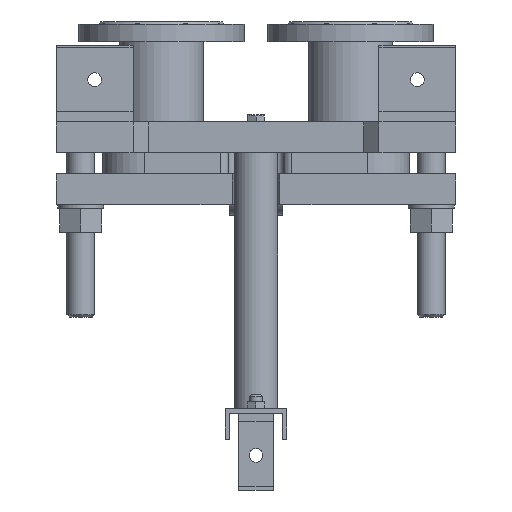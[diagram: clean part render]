
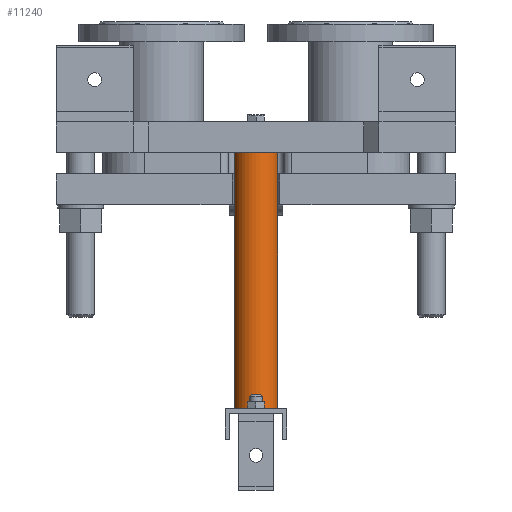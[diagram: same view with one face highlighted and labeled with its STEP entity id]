
A CAD part, front view. The second image highlights one B-rep face of the part: STEP entity #11240.
In plain terms, the highlighted cylindrical face has radius 28.5 mm (diameter 57 mm), a full revolution.
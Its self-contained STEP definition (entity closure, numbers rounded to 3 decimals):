
#781=LINE('',#22043,#1754);
#1754=VECTOR('',#14569,28.5);
#2333=CYLINDRICAL_SURFACE('',#12263,28.5);
#2995=FACE_OUTER_BOUND('',#3777,.T.);
#3777=EDGE_LOOP('',(#9013,#9014,#9015,#9016));
#4462=CIRCLE('',#12264,28.5);
#4463=CIRCLE('',#12265,28.5);
#5286=VERTEX_POINT('',#22040);
#5287=VERTEX_POINT('',#22042);
#6596=EDGE_CURVE('',#5286,#5286,#4462,.T.);
#6597=EDGE_CURVE('',#5286,#5287,#781,.T.);
#6598=EDGE_CURVE('',#5287,#5287,#4463,.T.);
#9013=ORIENTED_EDGE('',*,*,#6596,.F.);
#9014=ORIENTED_EDGE('',*,*,#6597,.T.);
#9015=ORIENTED_EDGE('',*,*,#6598,.T.);
#9016=ORIENTED_EDGE('',*,*,#6597,.F.);
#11240=ADVANCED_FACE('',(#2995),#2333,.T.);
#12263=AXIS2_PLACEMENT_3D('',#22039,#14565,#14566);
#12264=AXIS2_PLACEMENT_3D('',#22041,#14567,#14568);
#12265=AXIS2_PLACEMENT_3D('',#22044,#14570,#14571);
#14565=DIRECTION('center_axis',(0.,0.,
-1.));
#14566=DIRECTION('ref_axis',(-1.,0.,0.));
#14567=DIRECTION('center_axis',(0.,0.,
-1.));
#14568=DIRECTION('ref_axis',(-1.,0.,0.));
#14569=DIRECTION('',(0.,0.,1.));
#14570=DIRECTION('center_axis',(0.,0.,
-1.));
#14571=DIRECTION('ref_axis',(-1.,0.,0.));
#22039=CARTESIAN_POINT('Origin',(0.,215.,0.));
#22040=CARTESIAN_POINT('',(28.5,215.,-333.));
#22041=CARTESIAN_POINT('Origin',(0.,215.,-333.));
#22042=CARTESIAN_POINT('',(28.5,215.,0.));
#22043=CARTESIAN_POINT('',(28.5,215.,0.));
#22044=CARTESIAN_POINT('Origin',(0.,215.,0.));
